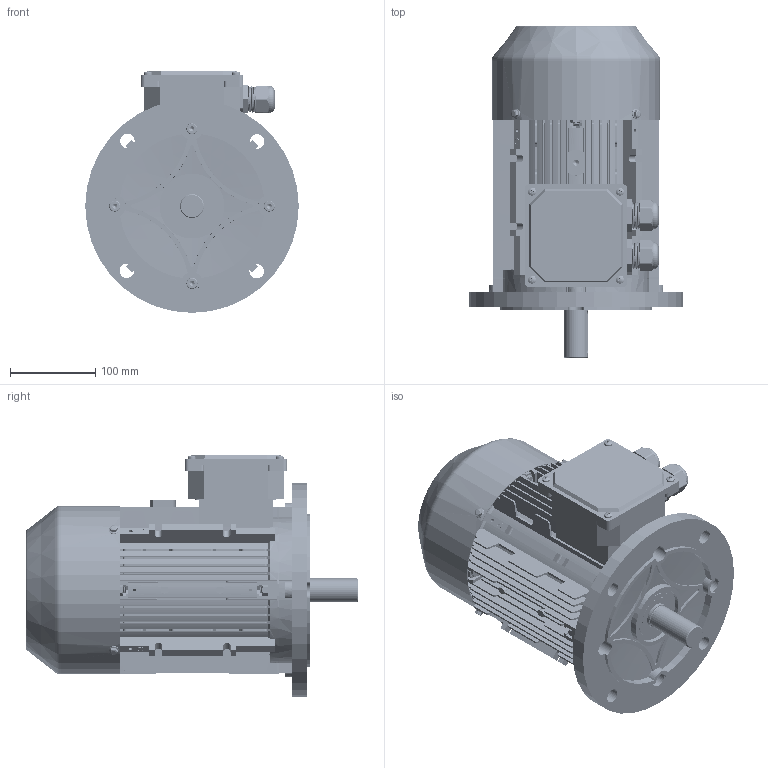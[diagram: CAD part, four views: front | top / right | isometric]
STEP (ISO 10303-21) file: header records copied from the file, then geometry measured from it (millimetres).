
FILE_DESCRIPTION (( 'STEP AP203' ), '1' );
FILE_NAME ('ME3-100B5 3D.STEP', '2024-06-18T07:55:06', ( 'User' ), ( 'China' ), 'SwSTEP 2.0', 'SolidWorks 2018', '' );
FILE_SCHEMA (( 'CONFIG_CONTROL_DESIGN' ));
Length unit declared in the file: millimetre
Products named in the file (20): ME3-100 瑞欶; ME3-100ヶ傷裔B3; M24 蹟杶; hex flange bolts-heavy grade b gb_GB_FASTENER_BOLT_HFBB M5X10-S; deep groove ball bearings gb_Rolling bearings 6206 GB 276-94; M24 蹟杶簸; ME3-100傷裔B5; ME3-100转轴（206.5）; hexagon socket head cap screws gb_GB_FASTENER_SCREWS_HSHCS M8X35-S; ME3-100B5  3D; 蚐猾45X30X7; hex nuts, style 2-grades ab gb_GB_HEXAGON_TYPE13 M8 Normal Style-S; ME 3 100 瑞珔; wave single coil spring lock washers gb_GB_FASTENER_WASHER_WSLW 8; circlips for shaft--type b gb_GB_CONNECTING_PIECE_RINGS_CSB 22; hexagon socket head cap screws gb_GB_FASTENER_SCREWS_HSHCS M8X25-S; MS112-132 諉盄碟釱; cross recessed pan head screws gb_GB_CROSS_SCREWS_TYPE1 M5X8-8  H type-S; MS112-132諉盄碟裔; ME3-100 儂褲
Assembly tree (49 placements, depth 2):
  ME3-100B5  3D
    ME3-100 儂褲
    ME3-100ヶ傷裔B3
    deep groove ball bearings gb_Rolling bearings 6206 GB 276-94  x2
    ME3-100转轴（206.5）
    蚐猾45X30X7
    ME 3 100 瑞珔
    circlips for shaft--type b gb_GB_CONNECTING_PIECE_RINGS_CSB 22
    MS112-132 諉盄碟釱
    M24 蹟杶  x2
    M24 蹟杶簸  x2
    hexagon socket head cap screws gb_GB_FASTENER_SCREWS_HSHCS M8X35-S  x7
    hex nuts, style 2-grades ab gb_GB_HEXAGON_TYPE13 M8 Normal Style-S  x9
    wave single coil spring lock washers gb_GB_FASTENER_WASHER_WSLW 8  x4
    hexagon socket head cap screws gb_GB_FASTENER_SCREWS_HSHCS M8X25-S
    cross recessed pan head screws gb_GB_CROSS_SCREWS_TYPE1 M5X8-8  H type-S  x8
    MS112-132諉盄碟裔
    ME3-100 瑞欶
    hex flange bolts-heavy grade b gb_GB_FASTENER_BOLT_HFBB M5X10-S  x4
    ME3-100傷裔B5
Bounding box: 250 x 388.69 x 283 mm (x, y, z)
Volume: 2099549.2 mm3; surface area: 1187239.7 mm2
Topology: 49 solids, 50 shells, 7137 faces, 17123 edges, 10027 vertices
Faces by surface type: cone 2709, cylinder 2172, plane 1856, torus 236, bspline 84, sphere 80
Entity records: 122678 total; most frequent: CARTESIAN_POINT 33195, ORIENTED_EDGE 18540, DIRECTION 17739, EDGE_CURVE 9270, AXIS2_PLACEMENT_3D 6260, VERTEX_POINT 5812, LINE 5219, VECTOR 5219
